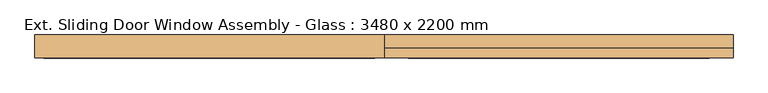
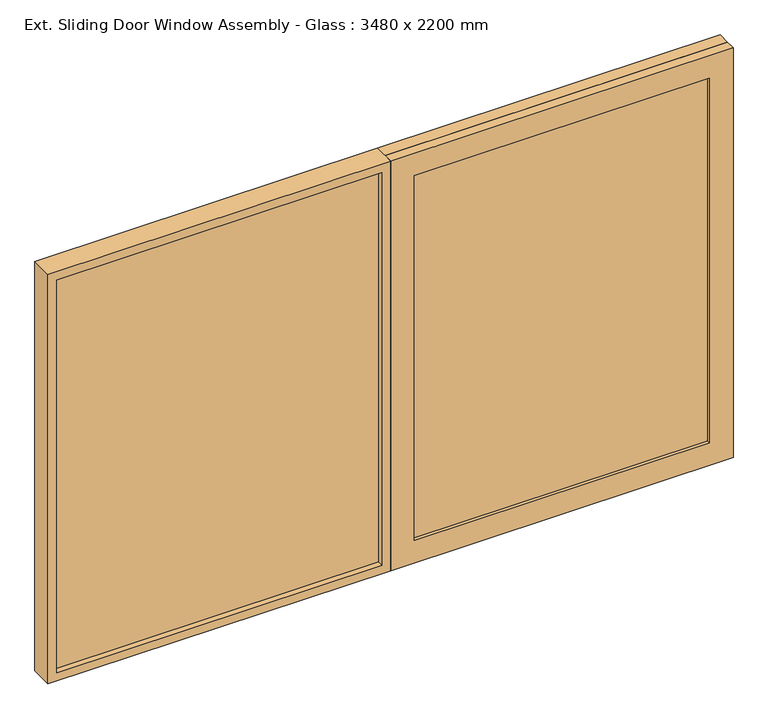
"""IFC4 building model written with IfcOpenShell, lengths in millimetres: door geometry, Ext. Sliding Door Window Assembly - Glass : 3480 x 2200 mm."""

from ifc_helpers import new_model, si_unit, frame, origin, origin_with_axes, place, context, project, spatial, polyline, outline, extrude, source, transform, mapped, element, save


def ext_sliding_door_window_assembly_glass_3480_x_2200_mm_951d785b(model_context):
    return source(origin(), model_context, "Body", "SweptSolid", [
        extrude(outline(polyline([(-45.0, 110.0), (-45.0, 88.0), (-1695.0, 88.0), (-1695.0, 110.0), (-45.0, 110.0)])), frame((0.0, 0.0, 45.0), z_axis=(0.0, 0.0, 1.0), x_axis=(1.0, 0.0, 0.0)), (0.0, 0.0, 1.0), 2110.0),
        extrude(outline(polyline([(0.0, 0.0), (2200.0, 0.0), (2200.0, -1740.0), (0.0, -1740.0), (0.0, 0.0)]), holes=[polyline([(2155.0, -45.0), (45.0, -45.0), (45.0, -1695.0), (2155.0, -1695.0), (2155.0, -45.0)])]), frame((0.0, 60.0, 0.0), z_axis=(0.0, 1.0, 0.0), x_axis=(0.0, 0.0, 1.0)), (0.0, 0.0, 1.0), 115.0),
        extrude(outline(polyline([(1740.0, 110.0), (0.0, 110.0), (0.0, 175.0), (1740.0, 175.0), (1740.0, 110.0)])), origin_with_axes(), (0.0, 0.0, 1.0), 45.0),
        extrude(outline(polyline([(1620.0, 93.3333333), (1620.0, 76.6666667), (120.0, 76.6666667), (120.0, 93.3333333), (1620.0, 93.3333333)])), frame((0.0, 0.0, 120.0), z_axis=(0.0, 0.0, 1.0), x_axis=(1.0, 0.0, 0.0)), (0.0, 0.0, 1.0), 1960.0),
        extrude(outline(polyline([(2200.0, 0.0), (45.0, 0.0), (45.0, 45.0), (2155.0, 45.0), (2155.0, 1695.0), (45.0, 1695.0), (45.0, 1740.0), (2200.0, 1740.0), (2200.0, 0.0)])), frame((0.0, 110.0, 0.0), z_axis=(0.0, 1.0, 0.0), x_axis=(0.0, 0.0, 1.0)), (0.0, 0.0, 1.0), 65.0),
        extrude(outline(polyline([(2200.0, 0.0), (0.0, 0.0), (0.0, 1740.0), (2200.0, 1740.0), (2200.0, 0.0)]), holes=[polyline([(2080.0, 120.0), (2080.0, 1620.0), (120.0, 1620.0), (120.0, 120.0), (2080.0, 120.0)])]), frame((0.0, 60.0, 0.0), z_axis=(0.0, 1.0, 0.0), x_axis=(0.0, 0.0, 1.0)), (0.0, 0.0, 1.0), 50.0),
    ])


if __name__ == "__main__":
    model = new_model("IFC4")
    model_context = context("Model", 3, world=origin())
    ifc_project = project(units=[si_unit("LENGTHUNIT", "METRE", prefix="MILLI")], contexts=[model_context])
    site = spatial("IfcSite", under=ifc_project)
    building = spatial("IfcBuilding", under=site)
    placement = place(None, origin())
    ext_sliding_door_window_assembly_glass_3480_x_2200_mm_shape = ext_sliding_door_window_assembly_glass_3480_x_2200_mm_951d785b(model_context)
    element("IfcDoor", 1, ObjectType="Ext. Sliding Door Window Assembly - Glass : 3480 x 2200 mm", at=placement, inside=building, context=model_context, shape_type="MappedRepresentation", body=[
        mapped(ext_sliding_door_window_assembly_glass_3480_x_2200_mm_shape, transform((0.0, 0.0, 0.0), x_axis=(1.0, 0.0, 0.0), y_axis=(0.0, 1.0, 0.0), z_axis=(0.0, 0.0, 1.0))),
    ])
    save(model, "model.ifc")
